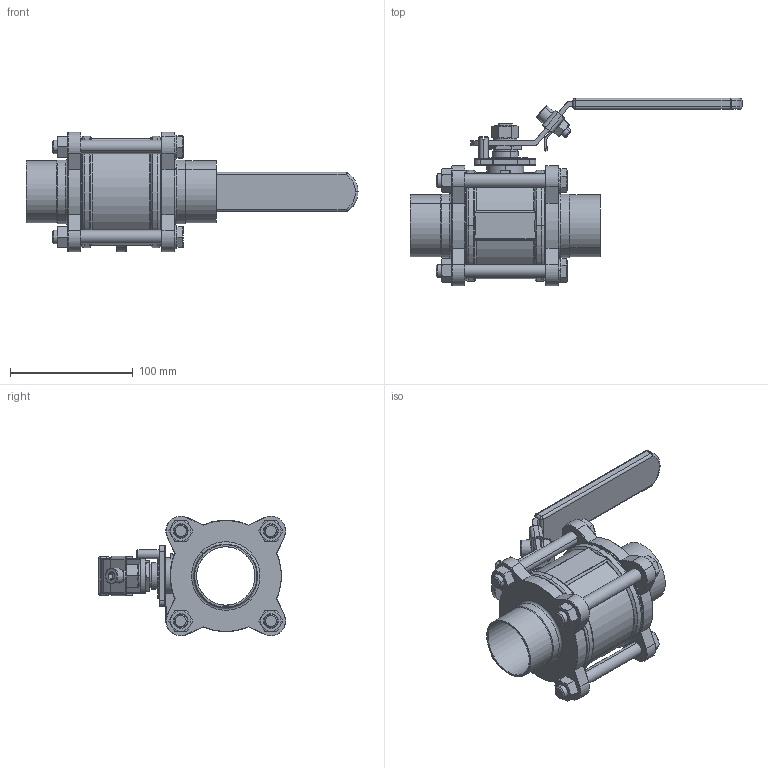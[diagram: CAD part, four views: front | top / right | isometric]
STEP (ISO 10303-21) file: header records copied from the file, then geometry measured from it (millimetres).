
FILE_DESCRIPTION (( 'STEP AP203' ), '1' );
FILE_NAME ('BAV-W-2.0.STEP', '2019-06-17T06:10:21', ( '' ), ( '' ), 'SwSTEP 2.0', 'SolidWorks 2014', '' );
FILE_SCHEMA (( 'CONFIG_CONTROL_DESIGN' ));
Length unit declared in the file: millimetre
Products named in the file (21): 2WAY-HANDLE-1.5-2.0-1; BAV-W-2.0; 2WAY-SEAT-2.0; 2WAY-GLAND-1.5-2.0; 2WAY-BODY-2.0; 2WAY-GASKET-2.0; 2WAY-HANDLE NUT-1.5-2.0; 2WAY-HANDLE-1.5-2.0-3-1; 2WAY-STEM PACKINGS-1.5-2.0; 2WAY-THRUST WASHER-1.5-2.0; 2WAY-HANDLE-1.5-2.0-3; 2WAY-CAP-W-2.0; 2WAY-HANDLE-1.5-2.0-2; 2WAY-BOLT-2.0; 2WAY-HANDLE WASHERS-1.5-2.0; 2WAY-BOLT WASHERS-1.5-2.0; 2WAY-HANDLE-1.5-2.0; 2WAY-BOLT NUT-1.5-2.0; 2WAY-STOP PIN-1.5-2.0; 2WAY-STEM-1.5-2.0; 2WAY-BALL-2.0
Assembly tree (32 placements, depth 2):
  BAV-W-2.0
    2WAY-BODY-2.0
    2WAY-STEM-1.5-2.0
    2WAY-THRUST WASHER-1.5-2.0
    2WAY-BALL-2.0
    2WAY-SEAT-2.0  x2
    2WAY-STEM PACKINGS-1.5-2.0
    2WAY-GLAND-1.5-2.0
    2WAY-GASKET-2.0  x2
    2WAY-HANDLE NUT-1.5-2.0
    2WAY-HANDLE WASHERS-1.5-2.0
    2WAY-HANDLE-1.5-2.0-1
    2WAY-HANDLE-1.5-2.0-2
    2WAY-HANDLE-1.5-2.0-3
    2WAY-HANDLE-1.5-2.0-3-1
    2WAY-HANDLE-1.5-2.0
    2WAY-STOP PIN-1.5-2.0
    2WAY-BOLT NUT-1.5-2.0  x4
    2WAY-BOLT WASHERS-1.5-2.0  x4
    2WAY-BOLT-2.0  x4
    2WAY-CAP-W-2.0  x2
Bounding box: 271.01 x 152.82 x 97.69 mm (x, y, z)
Volume: 552528.3 mm3; surface area: 241431.2 mm2
Topology: 32 solids, 32 shells, 984 faces, 2248 edges, 1318 vertices
Faces by surface type: cylinder 367, plane 242, torus 167, cone 133, sphere 43, bspline 32
Entity records: 25572 total; most frequent: CARTESIAN_POINT 5611, DIRECTION 4002, ORIENTED_EDGE 3436, EDGE_CURVE 1718, AXIS2_PLACEMENT_3D 1691, VERTEX_POINT 1005, CIRCLE 921, EDGE_LOOP 837
